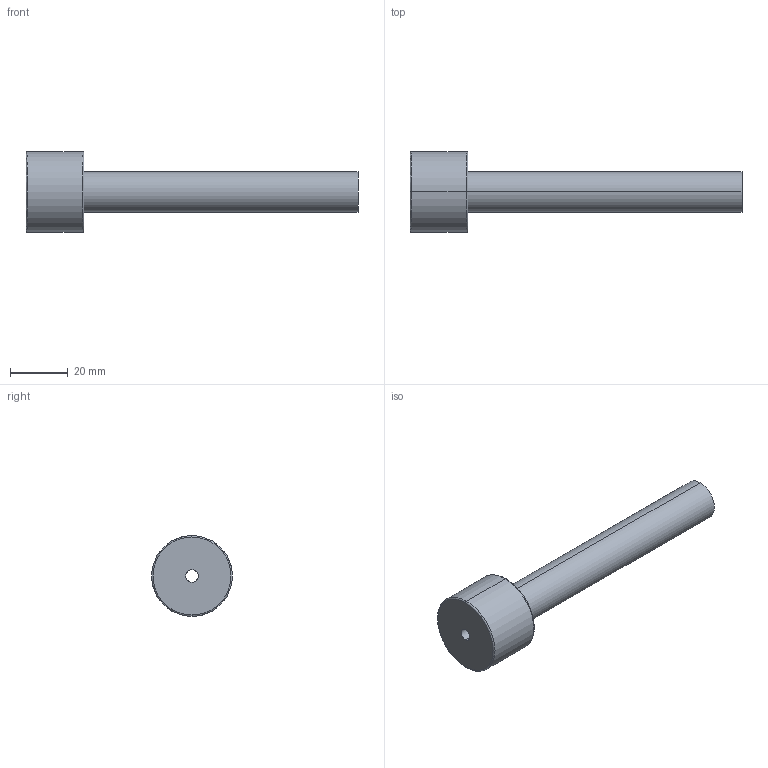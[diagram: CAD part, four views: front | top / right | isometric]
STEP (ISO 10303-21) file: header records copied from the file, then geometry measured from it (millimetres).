
FILE_DESCRIPTION(('CATIA V5 STEP Exchange'),'2;1');
FILE_NAME('C:\Users\Utente\Desktop\IO LAVORO\3D X SITO CF\X SITO\PLASTICA\3D files 367\367F-14X115.stp','2021-03-24T15:50:53+00:00',('none'),('none'),'CATIA Version 5 Release 20 GA (IN-10)','CATIA V5 STEP AP203','none');
FILE_SCHEMA(('CONFIG_CONTROL_DESIGN'));
Length unit declared in the file: millimetre
Products named in the file (1): 367F-14X115
Bounding box: 115 x 28 x 28 mm (x, y, z)
Volume: 21828.6 mm3; surface area: 9675.3 mm2
Topology: 1 solids, 1 shells, 13 faces, 42 edges, 32 vertices
Faces by surface type: torus 4, cylinder 4, plane 3, cone 2
Entity records: 614 total; most frequent: CARTESIAN_POINT 200, ORIENTED_EDGE 84, DIRECTION 60, AXIS2_PLACEMENT_3D 42, EDGE_CURVE 42, VERTEX_POINT 32, CIRCLE 28, EDGE_LOOP 16
